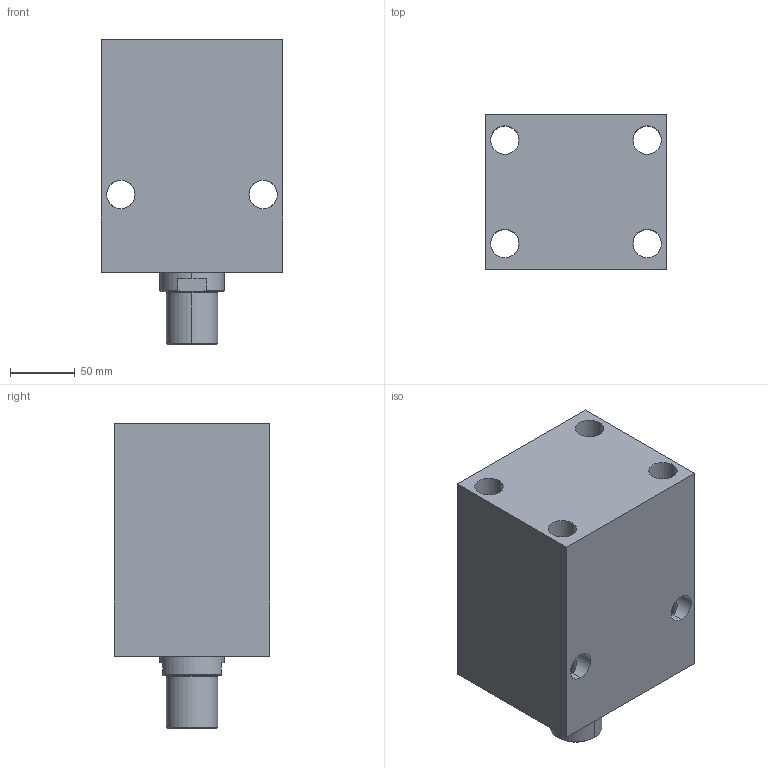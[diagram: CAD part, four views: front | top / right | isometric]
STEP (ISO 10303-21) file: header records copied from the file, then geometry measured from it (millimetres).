
FILE_DESCRIPTION (( 'STEP AP203' ), '1' );
FILE_NAME ('Block cylinder B01C-810M.STEP', '2022-07-09T18:17:59', ( '' ), ( '' ), 'SwSTEP 2.0', 'SolidWorks 2017', '' );
FILE_SCHEMA (( 'CONFIG_CONTROL_DESIGN' ));
Length unit declared in the file: millimetre
Products named in the file (3): Block cylinder B01C-810M; Body_ 810M_50ST; Piston _810M
Assembly tree (2 placements, depth 2):
  Block cylinder B01C-810M
    Body_ 810M_50ST
    Piston _810M
Bounding box: 140 x 120 x 236 mm (x, y, z)
Volume: 2904374.4 mm3; surface area: 222630.6 mm2
Topology: 2 solids, 2 shells, 360 faces, 978 edges, 640 vertices
Faces by surface type: bspline 160, plane 146, cylinder 46, cone 8
Entity records: 18133 total; most frequent: CARTESIAN_POINT 9889, ORIENTED_EDGE 1948, DIRECTION 1096, EDGE_CURVE 974, VERTEX_POINT 640, LINE 550, VECTOR 550, EDGE_LOOP 402
